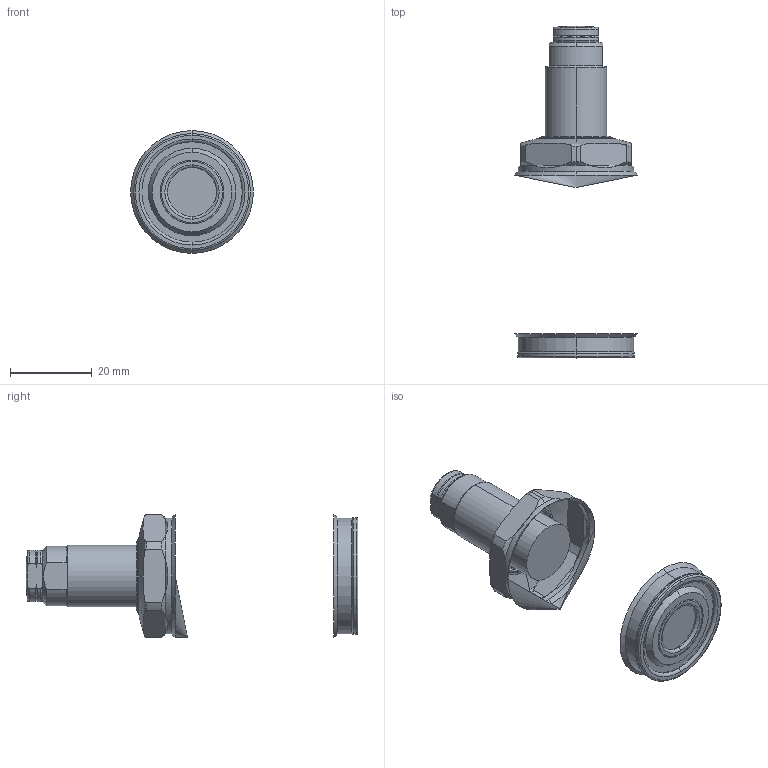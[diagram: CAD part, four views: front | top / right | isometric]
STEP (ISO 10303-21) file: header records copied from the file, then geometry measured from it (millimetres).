
FILE_DESCRIPTION(/* description */ (''),/* implementation_level */ '2;1');
FILE_NAME(/* name */ 'GSS03-Q.stp',/* time_stamp */ '2025-01-10T09:24:19+08:00',/* author */ (''),/* organization */ (''),/* preprocessor_version */ 'ST-DEVELOPER v16.7',/* originating_system */ 'SIEMENS PLM Software NX 12.0',/* authorisation */ '');
FILE_SCHEMA (('AUTOMOTIVE_DESIGN { 1 0 10303 214 3 1 1 1 }'));
Length unit declared in the file: millimetre
Products named in the file (7): TNC0403_ContactBolt_M104473; AS0102700; GSS03-Q-001; GSS03-Q-04; GSS03-Q-03; GSS03-Q-02; GSS03-Q_stp
Assembly tree (6 placements, depth 3):
  GSS03-Q_stp
    GSS03-Q-02
      AS0102700
      TNC0403_ContactBolt_M104473
    GSS03-Q-03
    GSS03-Q-04
    GSS03-Q-001
Bounding box: 30 x 81 x 30 mm (x, y, z)
Volume: 8087.2 mm3; surface area: 6587.9 mm2
Topology: 5 solids, 6 shells, 164 faces, 364 edges, 220 vertices
Faces by surface type: cylinder 48, torus 45, plane 35, cone 34, sphere 2
Full cylindrical faces by diameter (mm): 28.2 x1, 30 x2
Entity records: 4999 total; most frequent: CARTESIAN_POINT 1111, DIRECTION 873, ORIENTED_EDGE 732, AXIS2_PLACEMENT_3D 389, EDGE_CURVE 366, VERTEX_POINT 223, CIRCLE 213, EDGE_LOOP 179
